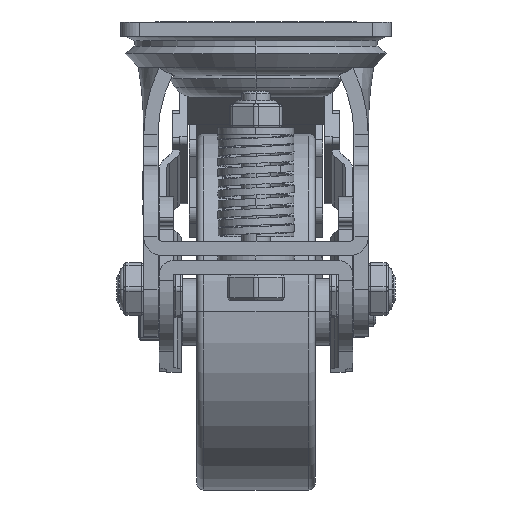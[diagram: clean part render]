
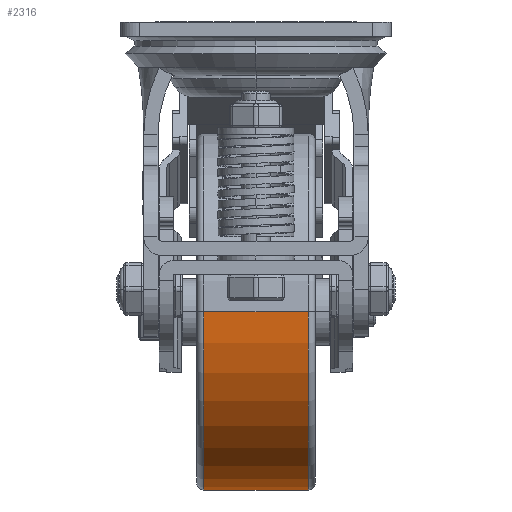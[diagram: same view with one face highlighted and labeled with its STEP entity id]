
A CAD part, left-side view. The second image highlights one B-rep face of the part: STEP entity #2316.
In plain terms, the highlighted cylindrical face has radius 75 mm (diameter 150 mm), a partial arc.
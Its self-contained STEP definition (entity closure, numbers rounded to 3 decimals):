
#292=CYLINDRICAL_SURFACE('',#18004,75.);
#1335=FACE_OUTER_BOUND('',#6268,.T.);
#2316=ADVANCED_FACE('',(#1335),#292,.T.);
#3687=LINE('',#28240,#4878);
#3688=LINE('',#28241,#4879);
#4878=VECTOR('',#20165,1.);
#4879=VECTOR('',#20166,1.);
#6268=EDGE_LOOP('',(#7963,#7964,#7965,#7966));
#7963=ORIENTED_EDGE('',*,*,#14215,.T.);
#7964=ORIENTED_EDGE('',*,*,#14610,.T.);
#7965=ORIENTED_EDGE('',*,*,#14606,.T.);
#7966=ORIENTED_EDGE('',*,*,#14611,.F.);
#12525=VERTEX_POINT('',#24580);
#12526=VERTEX_POINT('',#24582);
#12772=VERTEX_POINT('',#28233);
#12773=VERTEX_POINT('',#28234);
#14215=EDGE_CURVE('',#12526,#12525,#16872,.T.);
#14606=EDGE_CURVE('',#12772,#12773,#16984,.T.);
#14610=EDGE_CURVE('',#12525,#12772,#3687,.T.);
#14611=EDGE_CURVE('',#12526,#12773,#3688,.T.);
#16872=CIRCLE('',#17783,75.);
#16984=CIRCLE('',#17997,75.);
#17783=AXIS2_PLACEMENT_3D('',#24581,#19657,#19658);
#17997=AXIS2_PLACEMENT_3D('',#28232,#20153,#20154);
#18004=AXIS2_PLACEMENT_3D('',#28243,#20169,#20170);
#19657=DIRECTION('',(0.,1.,0.));
#19658=DIRECTION('',(1.,0.,0.));
#20153=DIRECTION('',(0.,-1.,0.));
#20154=DIRECTION('',(-1.,0.,0.));
#20165=DIRECTION('',(0.,1.,0.));
#20166=DIRECTION('',(0.,1.,0.));
#20169=DIRECTION('',(0.,1.,0.));
#20170=DIRECTION('',(1.,0.,0.));
#24580=CARTESIAN_POINT('',(-25.,-22.,-122.));
#24581=CARTESIAN_POINT('',(50.,-22.,-122.));
#24582=CARTESIAN_POINT('',(125.,-22.,-122.));
#28232=CARTESIAN_POINT('',(50.,22.,-122.));
#28233=CARTESIAN_POINT('',(-25.,22.,-122.));
#28234=CARTESIAN_POINT('',(125.,22.,-122.));
#28240=CARTESIAN_POINT('',(-25.,-22.,-122.));
#28241=CARTESIAN_POINT('',(125.,-22.,-122.));
#28243=CARTESIAN_POINT('',(50.,-34.1,-122.));
